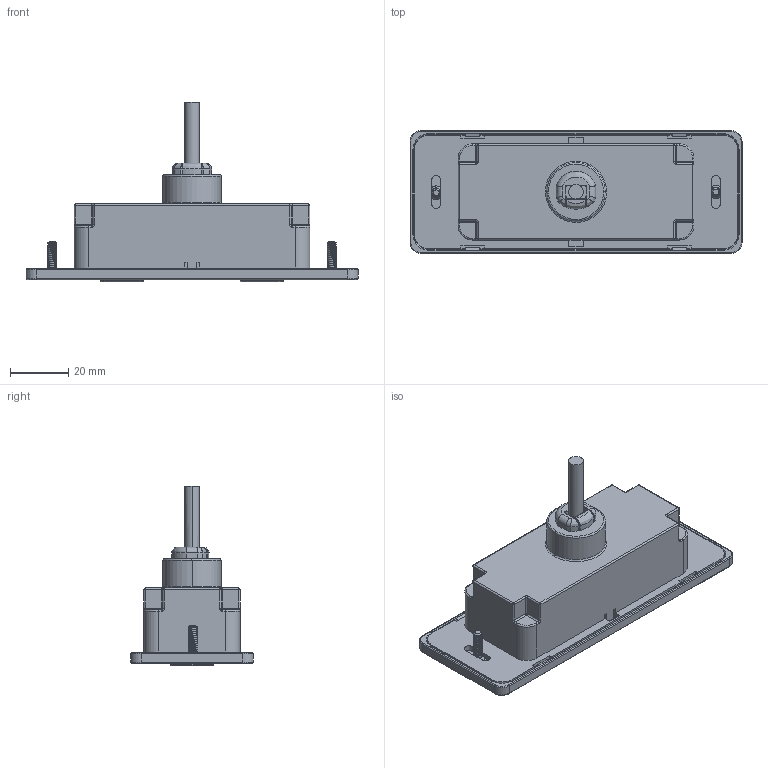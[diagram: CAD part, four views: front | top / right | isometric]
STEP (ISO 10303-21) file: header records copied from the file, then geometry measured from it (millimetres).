
FILE_DESCRIPTION (( 'STEP AP203' ), '1' );
FILE_NAME ('3DTFH11-A.STEP', '2017-07-26T08:58:45', ( '' ), ( '' ), 'SwSTEP 2.0', 'SolidWorks 2015', '' );
FILE_SCHEMA (( 'CONFIG_CONTROL_DESIGN' ));
Length unit declared in the file: millimetre
Products named in the file (1): 3DTFH11-A
Bounding box: 114 x 42 x 61.8 mm (x, y, z)
Volume: 79165.6 mm3; surface area: 20993.6 mm2
Topology: 1 solids, 1 shells, 980 faces, 2512 edges, 1558 vertices
Faces by surface type: plane 467, cylinder 379, bspline 120, cone 14
Entity records: 34094 total; most frequent: CARTESIAN_POINT 11171, ORIENTED_EDGE 5000, DIRECTION 4459, EDGE_CURVE 2500, VECTOR 1599, LINE 1599, VERTEX_POINT 1558, AXIS2_PLACEMENT_3D 1430
